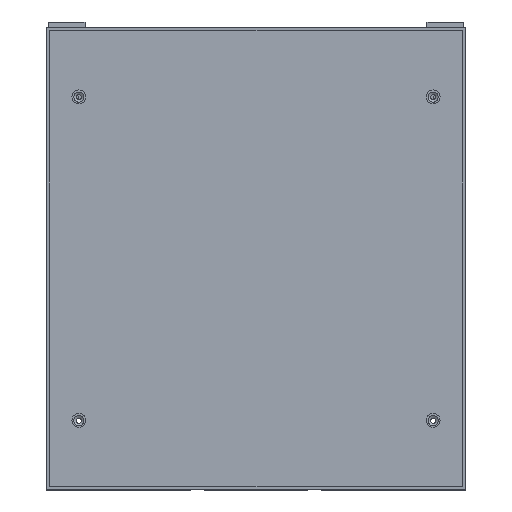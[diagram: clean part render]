
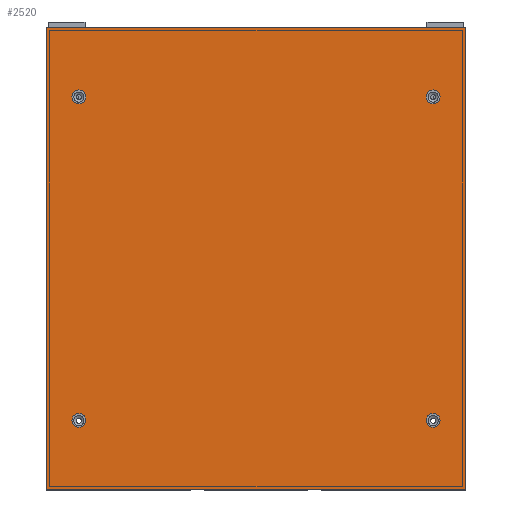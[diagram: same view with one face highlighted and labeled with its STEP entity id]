
A CAD part, top view. The second image highlights one B-rep face of the part: STEP entity #2520.
In plain terms, the highlighted planar face has unit normal (0, 0, 1).
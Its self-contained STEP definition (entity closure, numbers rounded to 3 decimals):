
#731=FACE_BOUND('',#4539,.T.);
#732=FACE_BOUND('',#4540,.T.);
#733=FACE_BOUND('',#4541,.T.);
#734=FACE_BOUND('',#4542,.T.);
#735=FACE_BOUND('',#4543,.T.);
#1672=CIRCLE('',#16255,2.25);
#1673=CIRCLE('',#16256,2.25);
#1674=CIRCLE('',#16257,2.25);
#1675=CIRCLE('',#16258,2.25);
#2520=ADVANCED_FACE('',(#731,#732,#733,#734,#735),#3267,.F.);
#3267=PLANE('',#16259);
#4539=EDGE_LOOP('',(#6913));
#4540=EDGE_LOOP('',(#6914));
#4541=EDGE_LOOP('',(#6915));
#4542=EDGE_LOOP('',(#6916));
#4543=EDGE_LOOP('',(#6917,#6918,#6919,#6920));
#6913=ORIENTED_EDGE('',*,*,#12076,.F.);
#6914=ORIENTED_EDGE('',*,*,#12077,.F.);
#6915=ORIENTED_EDGE('',*,*,#12078,.F.);
#6916=ORIENTED_EDGE('',*,*,#12079,.F.);
#6917=ORIENTED_EDGE('',*,*,#11740,.F.);
#6918=ORIENTED_EDGE('',*,*,#12080,.F.);
#6919=ORIENTED_EDGE('',*,*,#11664,.F.);
#6920=ORIENTED_EDGE('',*,*,#12081,.F.);
#10089=VERTEX_POINT('',#23569);
#10090=VERTEX_POINT('',#23571);
#10137=VERTEX_POINT('',#23712);
#10138=VERTEX_POINT('',#23714);
#10329=VERTEX_POINT('',#24419);
#10330=VERTEX_POINT('',#24421);
#10331=VERTEX_POINT('',#24423);
#10332=VERTEX_POINT('',#24425);
#11664=EDGE_CURVE('',#10089,#10090,#13615,.T.);
#11740=EDGE_CURVE('',#10137,#10138,#13675,.T.);
#12076=EDGE_CURVE('',#10329,#10329,#1672,.T.);
#12077=EDGE_CURVE('',#10330,#10330,#1673,.T.);
#12078=EDGE_CURVE('',#10331,#10331,#1674,.T.);
#12079=EDGE_CURVE('',#10332,#10332,#1675,.T.);
#12080=EDGE_CURVE('',#10090,#10137,#13876,.T.);
#12081=EDGE_CURVE('',#10138,#10089,#13877,.T.);
#13615=LINE('',#23570,#14757);
#13675=LINE('',#23713,#14817);
#13876=LINE('',#24426,#15018);
#13877=LINE('',#24427,#15019);
#14757=VECTOR('',#18120,1.);
#14817=VECTOR('',#18250,1.);
#15018=VECTOR('',#19085,1.);
#15019=VECTOR('',#19086,1.);
#16255=AXIS2_PLACEMENT_3D('',#24418,#19077,#19078);
#16256=AXIS2_PLACEMENT_3D('',#24420,#19079,#19080);
#16257=AXIS2_PLACEMENT_3D('',#24422,#19081,#19082);
#16258=AXIS2_PLACEMENT_3D('',#24424,#19083,#19084);
#16259=AXIS2_PLACEMENT_3D('',#24428,#19087,#19088);
#18120=DIRECTION('',(0.,1.,0.));
#18250=DIRECTION('',(0.,-1.,0.));
#19077=DIRECTION('',(0.,0.,1.));
#19078=DIRECTION('',(-1.,0.,0.));
#19079=DIRECTION('',(0.,0.,1.));
#19080=DIRECTION('',(1.,0.,0.));
#19081=DIRECTION('',(0.,0.,1.));
#19082=DIRECTION('',(-1.,0.,0.));
#19083=DIRECTION('',(0.,0.,1.));
#19084=DIRECTION('',(1.,0.,0.));
#19085=DIRECTION('',(1.,0.,0.));
#19086=DIRECTION('',(-1.,0.,0.));
#19087=DIRECTION('',(0.,0.,-1.));
#19088=DIRECTION('',(1.,0.,0.));
#23569=CARTESIAN_POINT('',(-68.,-78.,193.));
#23570=CARTESIAN_POINT('',(-68.,72.,193.));
#23571=CARTESIAN_POINT('',(-68.,72.,193.));
#23712=CARTESIAN_POINT('',(68.,72.,193.));
#23713=CARTESIAN_POINT('',(68.,72.,193.));
#23714=CARTESIAN_POINT('',(68.,-78.,193.));
#24418=CARTESIAN_POINT('',(-57.5,-55.5,193.));
#24419=CARTESIAN_POINT('',(-59.75,-55.5,193.));
#24420=CARTESIAN_POINT('',(57.5,-55.5,193.));
#24421=CARTESIAN_POINT('',(59.75,-55.5,193.));
#24422=CARTESIAN_POINT('',(57.5,49.5,193.));
#24423=CARTESIAN_POINT('',(55.25,49.5,193.));
#24424=CARTESIAN_POINT('',(-57.5,49.5,193.));
#24425=CARTESIAN_POINT('',(-55.25,49.5,193.));
#24426=CARTESIAN_POINT('',(68.,72.,193.));
#24427=CARTESIAN_POINT('',(68.,-78.,193.));
#24428=CARTESIAN_POINT('',(0.,-3.,193.));
